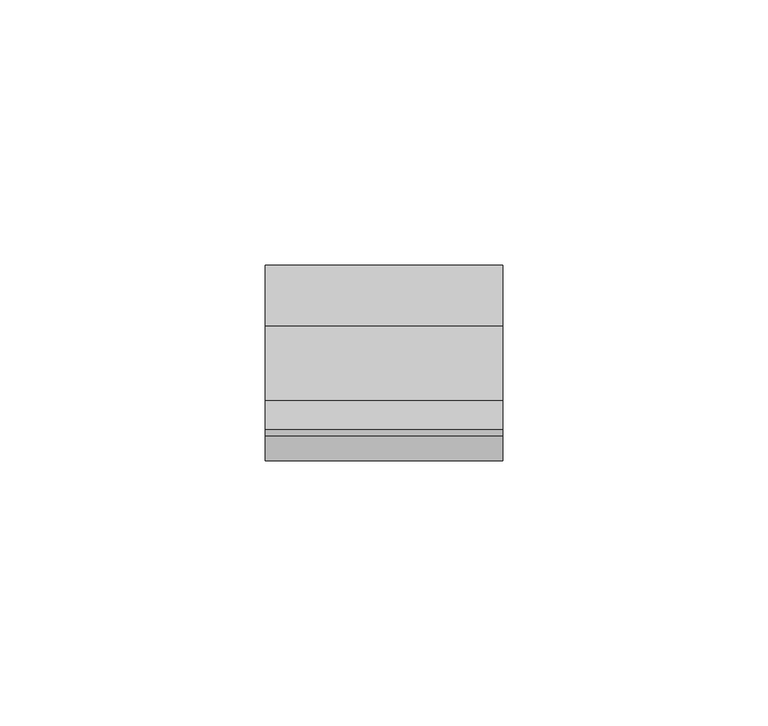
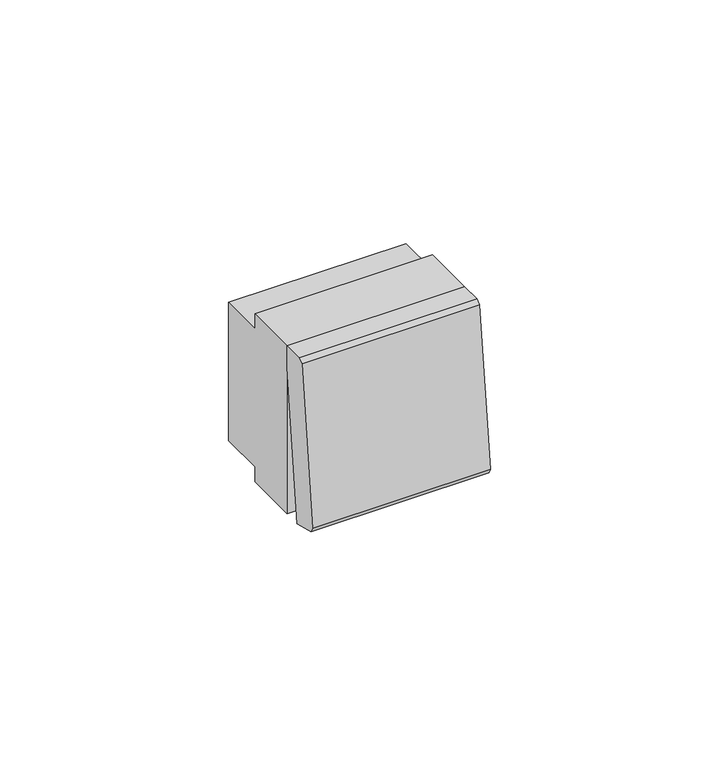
"""IFC4 building model written with IfcOpenShell, lengths in millimetres: proxy geometry."""

from ifc_helpers import new_model, si_unit, frame, origin, place, context, project, spatial, polyline, outline, extrude, source, transform, mapped, element, save


def electrical_fixtures_b8a5143a(model_context):
    return source(origin(), model_context, "Body", "SweptSolid", [
        extrude(outline(polyline([(-45.3066991, -20.8423049), (-46.0, -19.4477008), (-41.2925573, 21.5818457), (-40.0527044, 22.45), (-34.7, 22.45), (-34.7, 16.4732313), (-39.0907297, -22.45), (-45.3066991, -20.8423049)])), frame((0.0, 0.0, 0.0), z_axis=(1.0, 0.0, 0.0), x_axis=(0.0, 1.0, 0.0)), (0.0, 0.0, 1.0), 44.9),
        extrude(outline(polyline([(-20.7, 22.45), (-20.7, 18.45), (-9.1, 18.45), (-9.1, -18.45), (-20.7, -18.45), (-20.7, -22.45), (-34.7, -22.45), (-34.7, 22.45), (-20.7, 22.45)])), frame((0.0, 0.0, 0.0), z_axis=(1.0, 0.0, 0.0), x_axis=(0.0, 1.0, 0.0)), (0.0, 0.0, 1.0), 44.9),
    ])


if __name__ == "__main__":
    model = new_model("IFC4")
    model_context = context("Model", 3, world=origin())
    ifc_project = project(units=[si_unit("LENGTHUNIT", "METRE", prefix="MILLI")], contexts=[model_context])
    site = spatial("IfcSite", under=ifc_project)
    building = spatial("IfcBuilding", under=site)
    placement = place(None, origin())
    electrical_fixtures_shape = electrical_fixtures_b8a5143a(model_context)
    element("IfcBuildingElementProxy", 1, Name="Electrical Fixtures", at=placement, inside=building, context=model_context, shape_type="MappedRepresentation", body=[
        mapped(electrical_fixtures_shape, transform((0.0, 0.0, 0.0), x_axis=(1.0, 0.0, 0.0), y_axis=(0.0, 1.0, 0.0), z_axis=(0.0, 0.0, 1.0))),
    ])
    save(model, "model.ifc")
